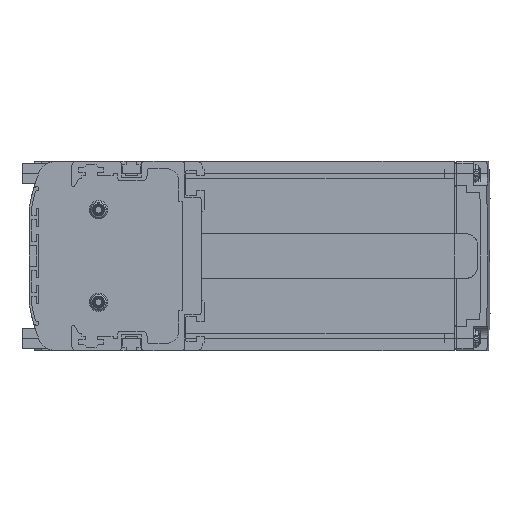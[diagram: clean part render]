
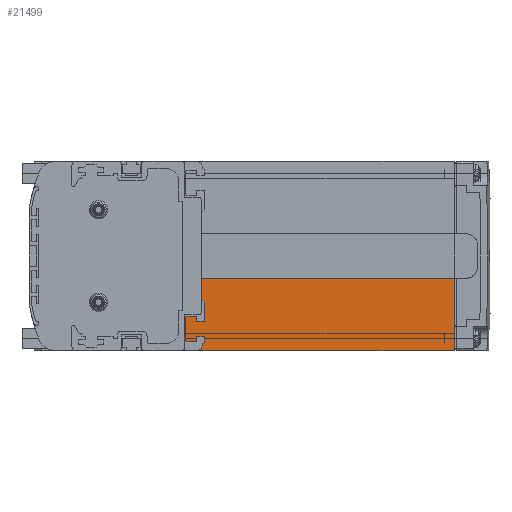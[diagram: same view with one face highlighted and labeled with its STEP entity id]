
A CAD part, left-side view. The second image highlights one B-rep face of the part: STEP entity #21499.
In plain terms, the highlighted planar face has unit normal (-1, 0, 0).
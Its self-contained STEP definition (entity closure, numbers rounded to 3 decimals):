
#81=DIRECTION('',(0.,0.,1.));
#82=VECTOR('',#81,29.9);
#83=CARTESIAN_POINT('',(3.,-103.,-39.));
#84=LINE('',#83,#82);
#327=DIRECTION('',(0.,1.,0.));
#328=VECTOR('',#327,112.);
#329=CARTESIAN_POINT('',(3.,-103.,-39.));
#330=LINE('',#329,#328);
#1208=DIRECTION('',(0.,1.,0.));
#1209=VECTOR('',#1208,104.);
#1210=CARTESIAN_POINT('',(3.,-103.,-9.1));
#1211=LINE('',#1210,#1209);
#3268=DIRECTION('',(0.,0.,1.));
#3269=VECTOR('',#3268,13.9);
#3270=CARTESIAN_POINT('',(3.,1.,-23.));
#3271=LINE('',#3270,#3269);
#3720=CARTESIAN_POINT('',(3.,2.,-23.));
#3721=DIRECTION('',(-1.,0.,0.));
#3722=DIRECTION('',(0.,0.,-1.));
#3723=AXIS2_PLACEMENT_3D('',#3720,#3721,#3722);
#3733=DIRECTION('',(0.,1.,0.));
#3734=VECTOR('',#3733,6.);
#3735=CARTESIAN_POINT('',(3.,2.,-24.));
#3736=LINE('',#3735,#3734);
#3737=DIRECTION('',(0.,0.,-1.));
#3738=VECTOR('',#3737,14.);
#3739=CARTESIAN_POINT('',(3.,8.,-24.));
#3740=LINE('',#3739,#3738);
#3745=CARTESIAN_POINT('',(3.,9.,-38.));
#3746=DIRECTION('',(-1.,0.,0.));
#3747=DIRECTION('',(0.,0.,-1.));
#3748=AXIS2_PLACEMENT_3D('',#3745,#3746,#3747);
#17243=CARTESIAN_POINT('',(3.,-103.,-39.));
#17244=VERTEX_POINT('',#17243);
#17245=CARTESIAN_POINT('',(3.,-103.,-9.1));
#17246=VERTEX_POINT('',#17245);
#20791=CARTESIAN_POINT('',(3.,1.,-23.));
#20792=CARTESIAN_POINT('',(3.,1.,-9.1));
#20793=VERTEX_POINT('',#20791);
#20794=VERTEX_POINT('',#20792);
#20839=CARTESIAN_POINT('',(3.,2.,-24.));
#20840=VERTEX_POINT('',#20839);
#20841=CARTESIAN_POINT('',(3.,8.,-24.));
#20842=VERTEX_POINT('',#20841);
#20843=CARTESIAN_POINT('',(3.,8.,-38.));
#20844=VERTEX_POINT('',#20843);
#20845=CARTESIAN_POINT('',(3.,9.,-39.));
#20846=VERTEX_POINT('',#20845);
#21476=CARTESIAN_POINT('',(3.,48.25,0.));
#21477=DIRECTION('',(1.,0.,0.));
#21478=DIRECTION('',(0.,1.,0.));
#21479=AXIS2_PLACEMENT_3D('',#21476,#21477,#21478);
#21480=PLANE('',#21479);
#21482=ORIENTED_EDGE('',*,*,#21481,.T.);
#21484=ORIENTED_EDGE('',*,*,#21483,.F.);
#21486=ORIENTED_EDGE('',*,*,#21485,.F.);
#21488=ORIENTED_EDGE('',*,*,#21487,.T.);
#21490=ORIENTED_EDGE('',*,*,#21489,.T.);
#21492=ORIENTED_EDGE('',*,*,#21491,.F.);
#21494=ORIENTED_EDGE('',*,*,#21493,.F.);
#21496=ORIENTED_EDGE('',*,*,#21495,.T.);
#21497=EDGE_LOOP('',(#21482,#21484,#21486,#21488,#21490,#21492,#21494,#21496));
#21498=FACE_OUTER_BOUND('',#21497,.F.);
#21499=ADVANCED_FACE('',(#21498),#21480,.F.);
#3724=CIRCLE('',#3723,1.);
#3749=CIRCLE('',#3748,1.);
#21481=EDGE_CURVE('',#20793,#20794,#3271,.T.);
#21483=EDGE_CURVE('',#17246,#20794,#1211,.T.);
#21485=EDGE_CURVE('',#17244,#17246,#84,.T.);
#21487=EDGE_CURVE('',#17244,#20846,#330,.T.);
#21489=EDGE_CURVE('',#20846,#20844,#3749,.T.);
#21491=EDGE_CURVE('',#20842,#20844,#3740,.T.);
#21493=EDGE_CURVE('',#20840,#20842,#3736,.T.);
#21495=EDGE_CURVE('',#20840,#20793,#3724,.T.);
